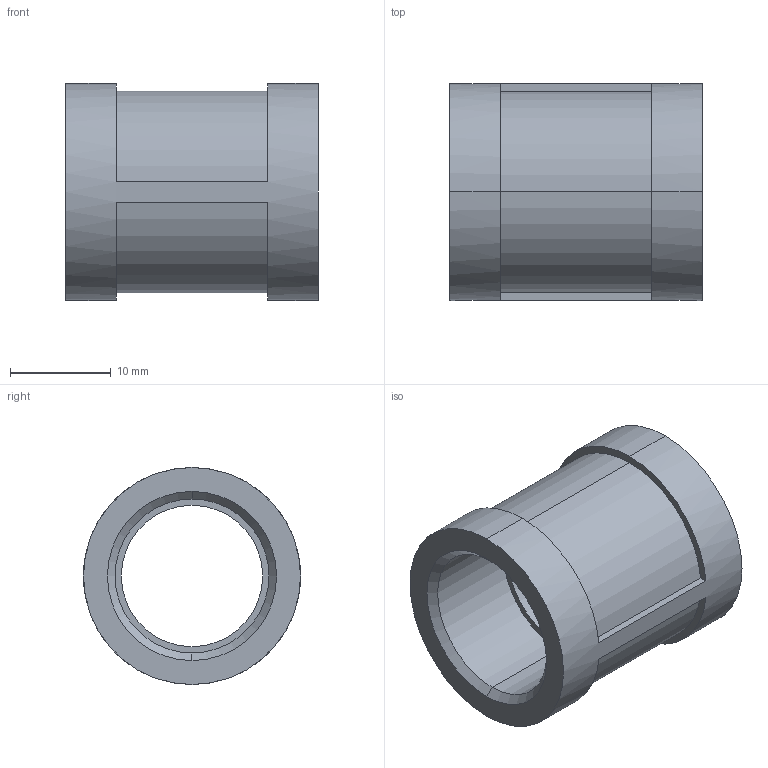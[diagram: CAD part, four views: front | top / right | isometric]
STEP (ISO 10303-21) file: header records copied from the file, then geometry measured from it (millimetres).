
FILE_DESCRIPTION (( 'STEP AP203' ), '1' );
FILE_NAME ('Wiberger-wn8625-a4-3-8tum.step', '2025-03-11T09:13:27', ( '' ), ( '' ), 'SwSTEP 2.0', 'SolidWorks 2023', '' );
FILE_SCHEMA (( 'CONFIG_CONTROL_DESIGN' ));
Length unit declared in the file: millimetre
Products named in the file (1): Wiberger-wn8625-a4-3-8tum
Bounding box: 25 x 21.5 x 21.5 mm (x, y, z)
Volume: 3937.4 mm3; surface area: 3310.6 mm2
Topology: 1 solids, 1 shells, 27 faces, 65 edges, 42 vertices
Faces by surface type: plane 12, cylinder 11, cone 4
Entity records: 882 total; most frequent: DIRECTION 155, CARTESIAN_POINT 135, ORIENTED_EDGE 130, EDGE_CURVE 65, AXIS2_PLACEMENT_3D 62, VERTEX_POINT 42, CIRCLE 34, LINE 31
